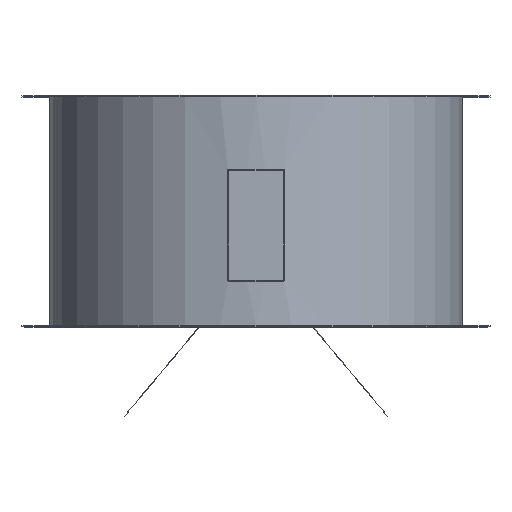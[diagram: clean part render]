
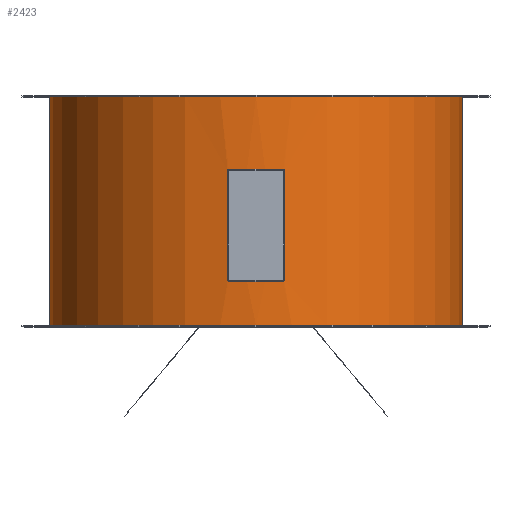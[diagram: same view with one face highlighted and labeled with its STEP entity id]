
A CAD part, top view. The second image highlights one B-rep face of the part: STEP entity #2423.
In plain terms, the highlighted cylindrical face has radius 357 mm (diameter 714 mm), a full revolution.
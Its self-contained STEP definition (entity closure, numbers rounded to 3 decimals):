
#19=FACE_BOUND('',#898,.T.);
#161=B_SPLINE_CURVE_WITH_KNOTS('',3,(#3378,#3379,#3380,#3381,#3382,#3383,
#3384,#3385,#3386,#3387),.UNSPECIFIED.,.F.,.F.,(4,2,2,2,4),(0.,0.075,
0.151,0.227,0.303),.UNSPECIFIED.);
#162=B_SPLINE_CURVE_WITH_KNOTS('',3,(#3416,#3417,#3418,#3419,#3420,#3421,
#3422,#3423,#3424,#3425),.UNSPECIFIED.,.F.,.F.,(4,2,2,2,4),(-0.303,
-0.227,-0.151,-0.075,0.),
 .UNSPECIFIED.);
#163=B_SPLINE_CURVE_WITH_KNOTS('',3,(#3431,#3432,#3433,#3434,#3435,#3436,
#3437,#3438,#3439,#3440),.UNSPECIFIED.,.F.,.F.,(4,2,2,2,4),(0.605,
0.681,0.756,0.832,0.908),
 .UNSPECIFIED.);
#164=B_SPLINE_CURVE_WITH_KNOTS('',3,(#3446,#3447,#3448,#3449,#3450,#3451,
#3452,#3453,#3454,#3455),.UNSPECIFIED.,.F.,.F.,(4,2,2,2,4),(0.303,
0.379,0.454,0.53,0.605),
 .UNSPECIFIED.);
#191=LINE('',#3459,#406);
#192=LINE('',#3464,#407);
#387=LINE('',#4135,#602);
#406=VECTOR('',#2748,10.);
#407=VECTOR('',#2757,10.);
#602=VECTOR('',#3332,355.);
#649=CYLINDRICAL_SURFACE('',#2667,357.);
#769=FACE_OUTER_BOUND('',#897,.T.);
#897=EDGE_LOOP('',(#2194,#2195,#2196,#2197));
#898=EDGE_LOOP('',(#2198,#2199,#2200,#2201,#2202,#2203,#2204,#2205));
#985=CIRCLE('',#2476,357.);
#986=CIRCLE('',#2480,357.);
#1073=CIRCLE('',#2668,357.);
#1074=CIRCLE('',#2669,357.);
#1085=VERTEX_POINT('',#3376);
#1086=VERTEX_POINT('',#3377);
#1093=VERTEX_POINT('',#3414);
#1094=VERTEX_POINT('',#3415);
#1095=VERTEX_POINT('',#3429);
#1096=VERTEX_POINT('',#3430);
#1097=VERTEX_POINT('',#3444);
#1098=VERTEX_POINT('',#3445);
#1291=VERTEX_POINT('',#4132);
#1292=VERTEX_POINT('',#4134);
#1305=EDGE_CURVE('',#1085,#1086,#161,.F.);
#1320=EDGE_CURVE('',#1093,#1094,#162,.F.);
#1323=EDGE_CURVE('',#1095,#1096,#163,.F.);
#1326=EDGE_CURVE('',#1097,#1098,#164,.F.);
#1329=EDGE_CURVE('',#1093,#1086,#191,.T.);
#1330=EDGE_CURVE('',#1085,#1098,#985,.T.);
#1331=EDGE_CURVE('',#1097,#1096,#192,.T.);
#1332=EDGE_CURVE('',#1095,#1094,#986,.T.);
#1623=EDGE_CURVE('',#1291,#1291,#1073,.T.);
#1624=EDGE_CURVE('',#1291,#1292,#387,.T.);
#1625=EDGE_CURVE('',#1292,#1292,#1074,.F.);
#2194=ORIENTED_EDGE('',*,*,#1623,.T.);
#2195=ORIENTED_EDGE('',*,*,#1624,.T.);
#2196=ORIENTED_EDGE('',*,*,#1625,.T.);
#2197=ORIENTED_EDGE('',*,*,#1624,.F.);
#2198=ORIENTED_EDGE('',*,*,#1331,.T.);
#2199=ORIENTED_EDGE('',*,*,#1323,.F.);
#2200=ORIENTED_EDGE('',*,*,#1332,.T.);
#2201=ORIENTED_EDGE('',*,*,#1320,.F.);
#2202=ORIENTED_EDGE('',*,*,#1329,.T.);
#2203=ORIENTED_EDGE('',*,*,#1305,.F.);
#2204=ORIENTED_EDGE('',*,*,#1330,.T.);
#2205=ORIENTED_EDGE('',*,*,#1326,.F.);
#2423=ADVANCED_FACE('',(#769,#19),#649,.T.);
#2476=AXIS2_PLACEMENT_3D('',#3461,#2751,#2752);
#2480=AXIS2_PLACEMENT_3D('',#3466,#2760,#2761);
#2667=AXIS2_PLACEMENT_3D('',#4131,#3328,#3329);
#2668=AXIS2_PLACEMENT_3D('',#4133,#3330,#3331);
#2669=AXIS2_PLACEMENT_3D('',#4136,#3333,#3334);
#2748=DIRECTION('',(0.,1.,0.));
#2751=DIRECTION('center_axis',(0.,1.,0.));
#2752=DIRECTION('ref_axis',(1.,0.,0.));
#2757=DIRECTION('',(0.,-1.,0.));
#2760=DIRECTION('center_axis',(0.,-1.,0.));
#2761=DIRECTION('ref_axis',(1.,0.,0.));
#3328=DIRECTION('center_axis',(0.,1.,0.));
#3329=DIRECTION('ref_axis',(1.,0.,0.));
#3330=DIRECTION('center_axis',(0.,-1.,0.));
#3331=DIRECTION('ref_axis',(1.,0.,0.));
#3332=DIRECTION('',(0.,-1.,0.));
#3333=DIRECTION('center_axis',(0.,-1.,0.));
#3334=DIRECTION('ref_axis',(1.,0.,0.));
#3376=CARTESIAN_POINT('',(-47.,72.,353.893));
#3377=CARTESIAN_POINT('',(-49.,70.,353.621));
#3378=CARTESIAN_POINT('Ctrl Pts',(-49.,70.,353.621));
#3379=CARTESIAN_POINT('Ctrl Pts',(-49.,70.251,353.621));
#3380=CARTESIAN_POINT('Ctrl Pts',(-48.95,70.519,353.628));
#3381=CARTESIAN_POINT('Ctrl Pts',(-48.746,71.01,353.656));
#3382=CARTESIAN_POINT('Ctrl Pts',(-48.593,71.235,353.677));
#3383=CARTESIAN_POINT('Ctrl Pts',(-48.239,71.59,353.726));
#3384=CARTESIAN_POINT('Ctrl Pts',(-48.013,71.745,353.757));
#3385=CARTESIAN_POINT('Ctrl Pts',(-47.519,71.95,353.823));
#3386=CARTESIAN_POINT('Ctrl Pts',(-47.251,72.,353.859));
#3387=CARTESIAN_POINT('Ctrl Pts',(-47.,72.,353.893));
#3414=CARTESIAN_POINT('',(-49.,-120.,353.621));
#3415=CARTESIAN_POINT('',(-47.,-122.,353.893));
#3416=CARTESIAN_POINT('Ctrl Pts',(-47.,-122.,353.893));
#3417=CARTESIAN_POINT('Ctrl Pts',(-47.251,-122.,353.859));
#3418=CARTESIAN_POINT('Ctrl Pts',(-47.518,-121.95,353.824));
#3419=CARTESIAN_POINT('Ctrl Pts',(-48.011,-121.746,353.757));
#3420=CARTESIAN_POINT('Ctrl Pts',(-48.236,-121.592,353.726));
#3421=CARTESIAN_POINT('Ctrl Pts',(-48.591,-121.237,353.678));
#3422=CARTESIAN_POINT('Ctrl Pts',(-48.745,-121.013,353.656));
#3423=CARTESIAN_POINT('Ctrl Pts',(-48.95,-120.52,353.628));
#3424=CARTESIAN_POINT('Ctrl Pts',(-49.,-120.252,353.621));
#3425=CARTESIAN_POINT('Ctrl Pts',(-49.,-120.,353.621));
#3429=CARTESIAN_POINT('',(47.,-122.,353.893));
#3430=CARTESIAN_POINT('',(49.,-120.,353.621));
#3431=CARTESIAN_POINT('Ctrl Pts',(49.,-120.,353.621));
#3432=CARTESIAN_POINT('Ctrl Pts',(49.,-120.252,353.621));
#3433=CARTESIAN_POINT('Ctrl Pts',(48.95,-120.52,353.628));
#3434=CARTESIAN_POINT('Ctrl Pts',(48.745,-121.013,353.656));
#3435=CARTESIAN_POINT('Ctrl Pts',(48.591,-121.237,353.678));
#3436=CARTESIAN_POINT('Ctrl Pts',(48.236,-121.592,353.726));
#3437=CARTESIAN_POINT('Ctrl Pts',(48.011,-121.746,353.757));
#3438=CARTESIAN_POINT('Ctrl Pts',(47.518,-121.95,353.824));
#3439=CARTESIAN_POINT('Ctrl Pts',(47.251,-122.,353.859));
#3440=CARTESIAN_POINT('Ctrl Pts',(47.,-122.,353.893));
#3444=CARTESIAN_POINT('',(49.,70.,353.621));
#3445=CARTESIAN_POINT('',(47.,72.,353.893));
#3446=CARTESIAN_POINT('Ctrl Pts',(47.,72.,353.893));
#3447=CARTESIAN_POINT('Ctrl Pts',(47.251,72.,353.859));
#3448=CARTESIAN_POINT('Ctrl Pts',(47.518,71.95,353.824));
#3449=CARTESIAN_POINT('Ctrl Pts',(48.011,71.746,353.757));
#3450=CARTESIAN_POINT('Ctrl Pts',(48.236,71.592,353.726));
#3451=CARTESIAN_POINT('Ctrl Pts',(48.591,71.237,353.678));
#3452=CARTESIAN_POINT('Ctrl Pts',(48.745,71.013,353.656));
#3453=CARTESIAN_POINT('Ctrl Pts',(48.95,70.52,353.628));
#3454=CARTESIAN_POINT('Ctrl Pts',(49.,70.252,353.621));
#3455=CARTESIAN_POINT('Ctrl Pts',(49.,70.,353.621));
#3459=CARTESIAN_POINT('',(-49.,0.,353.621));
#3461=CARTESIAN_POINT('Origin',(0.,72.,0.));
#3464=CARTESIAN_POINT('',(49.,0.,353.621));
#3466=CARTESIAN_POINT('Origin',(0.,-122.,0.));
#4131=CARTESIAN_POINT('Origin',(0.,0.,0.));
#4132=CARTESIAN_POINT('',(-357.,198.,0.));
#4133=CARTESIAN_POINT('Origin',(0.,198.,0.));
#4134=CARTESIAN_POINT('',(-357.,-198.,0.));
#4135=CARTESIAN_POINT('',(-357.,0.,0.));
#4136=CARTESIAN_POINT('Origin',(0.,-198.,0.));
